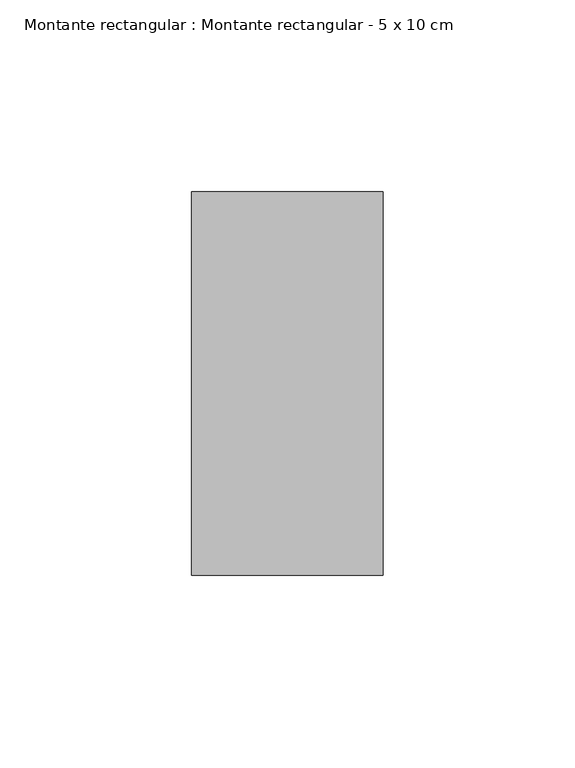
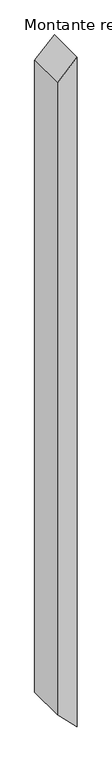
"""IFC4 building model written with IfcOpenShell, lengths in millimetres: member geometry, Montante rectangular : Montante rectangular - 5 x 10 cm."""

from ifc_helpers import new_model, si_unit, frame, origin, place, context, project, spatial, polyline, outline, extrude, source, transform, mapped, element, save


def montante_rectangular_montante_rectangular_5_x_10_cm_eff3f3d9(model_context):
    return source(origin(), model_context, "Body", "SweptSolid", [
        extrude(outline(polyline([(25.0059058, 0.0), (-26.0927829, -50.0), (-1731.4955593, -50.0), (-1780.4204938, 0.0), (25.0059058, 0.0)])), frame((0.0, -50.0, 0.0), z_axis=(0.0, 1.0, 0.0), x_axis=(0.0, 0.0, 1.0)), (0.0, 0.0, 1.0), 100.0),
    ])


if __name__ == "__main__":
    model = new_model("IFC4")
    model_context = context("Model", 3, world=origin())
    ifc_project = project(units=[si_unit("LENGTHUNIT", "METRE", prefix="MILLI")], contexts=[model_context])
    site = spatial("IfcSite", under=ifc_project)
    building = spatial("IfcBuilding", under=site)
    placement = place(None, origin())
    montante_rectangular_montante_rectangular_5_x_10_cm_shape = montante_rectangular_montante_rectangular_5_x_10_cm_eff3f3d9(model_context)
    element("IfcMember", 1, ObjectType="Montante rectangular : Montante rectangular - 5 x 10 cm", at=placement, inside=building, context=model_context, shape_type="MappedRepresentation", body=[
        mapped(montante_rectangular_montante_rectangular_5_x_10_cm_shape, transform((0.0, 0.0, 0.0), x_axis=(1.0, 0.0, 0.0), y_axis=(0.0, 1.0, 0.0), z_axis=(0.0, 0.0, 1.0))),
    ])
    save(model, "model.ifc")
